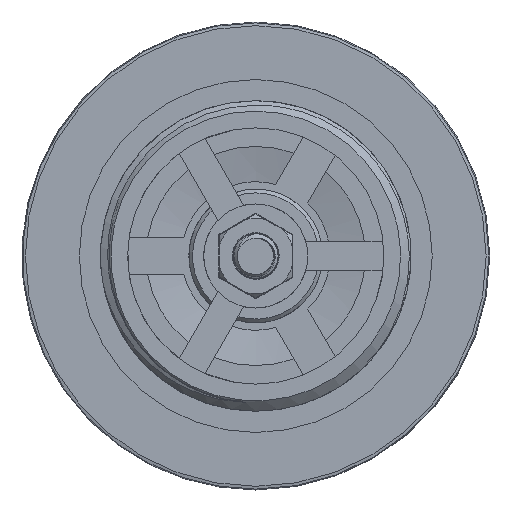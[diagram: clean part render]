
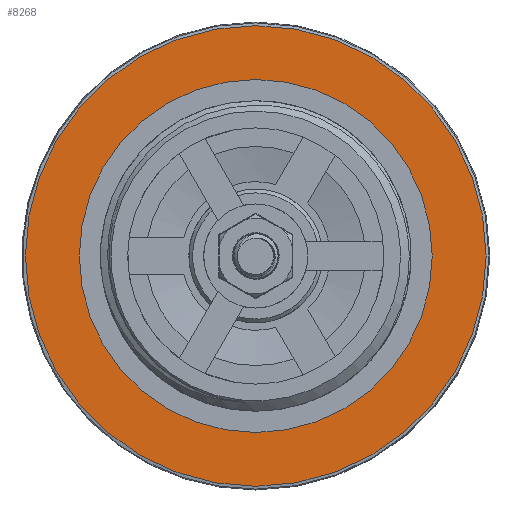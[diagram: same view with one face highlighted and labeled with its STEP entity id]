
A CAD part, front view. The second image highlights one B-rep face of the part: STEP entity #8268.
In plain terms, the highlighted planar face has unit normal (0, -1, 0).
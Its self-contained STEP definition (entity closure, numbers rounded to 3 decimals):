
#760=FACE_BOUND('',#1739,.T.);
#1302=FACE_OUTER_BOUND('',#1738,.T.);
#1738=EDGE_LOOP('',(#7523,#7524));
#1739=EDGE_LOOP('',(#7525,#7526));
#2079=CIRCLE('',#8933,31.);
#2080=CIRCLE('',#8934,31.);
#2086=CIRCLE('',#8944,23.75);
#2087=CIRCLE('',#8945,23.75);
#3793=VERTEX_POINT('',#366740);
#3794=VERTEX_POINT('',#366741);
#3799=VERTEX_POINT('',#366761);
#3800=VERTEX_POINT('',#366762);
#5067=EDGE_CURVE('',#3793,#3794,#2079,.T.);
#5069=EDGE_CURVE('',#3794,#3793,#2080,.T.);
#5078=EDGE_CURVE('',#3799,#3800,#2086,.T.);
#5079=EDGE_CURVE('',#3800,#3799,#2087,.T.);
#7523=ORIENTED_EDGE('',*,*,#5067,.F.);
#7524=ORIENTED_EDGE('',*,*,#5069,.F.);
#7525=ORIENTED_EDGE('',*,*,#5078,.F.);
#7526=ORIENTED_EDGE('',*,*,#5079,.F.);
#7887=PLANE('',#8943);
#8268=ADVANCED_FACE('',(#1302,#760),#7887,.F.);
#8933=AXIS2_PLACEMENT_3D('',#366742,#10590,#10591);
#8934=AXIS2_PLACEMENT_3D('',#366744,#10593,#10594);
#8943=AXIS2_PLACEMENT_3D('',#366760,#10614,#10615);
#8944=AXIS2_PLACEMENT_3D('',#366763,#10616,#10617);
#8945=AXIS2_PLACEMENT_3D('',#366764,#10618,#10619);
#10590=DIRECTION('center_axis',(0.,1.,0.));
#10591=DIRECTION('ref_axis',(0.,0.,
1.));
#10593=DIRECTION('center_axis',(0.,1.,0.));
#10594=DIRECTION('ref_axis',(0.,0.,
1.));
#10614=DIRECTION('center_axis',(0.,1.,0.));
#10615=DIRECTION('ref_axis',(0.,0.,1.));
#10616=DIRECTION('center_axis',(0.,-1.,0.));
#10617=DIRECTION('ref_axis',(0.,0.,
1.));
#10618=DIRECTION('center_axis',(0.,-1.,0.));
#10619=DIRECTION('ref_axis',(0.,0.,
1.));
#366740=CARTESIAN_POINT('',(0.,38.5,31.));
#366741=CARTESIAN_POINT('',(0.,38.5,-31.));
#366742=CARTESIAN_POINT('Origin',(0.,38.5,0.));
#366744=CARTESIAN_POINT('Origin',(0.,38.5,0.));
#366760=CARTESIAN_POINT('Origin',(-31.372,38.5,0.));
#366761=CARTESIAN_POINT('',(0.,38.5,23.75));
#366762=CARTESIAN_POINT('',(0.,38.5,-23.75));
#366763=CARTESIAN_POINT('Origin',(0.,38.5,0.));
#366764=CARTESIAN_POINT('Origin',(0.,38.5,0.));
